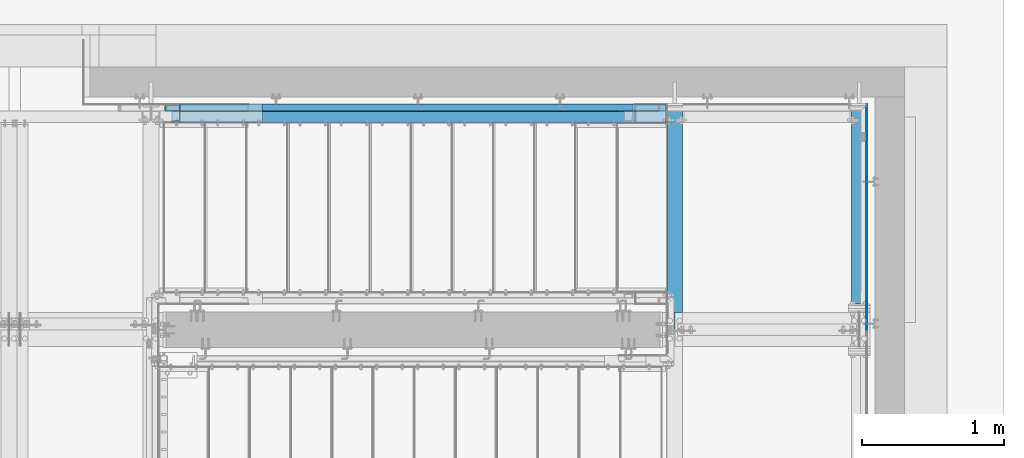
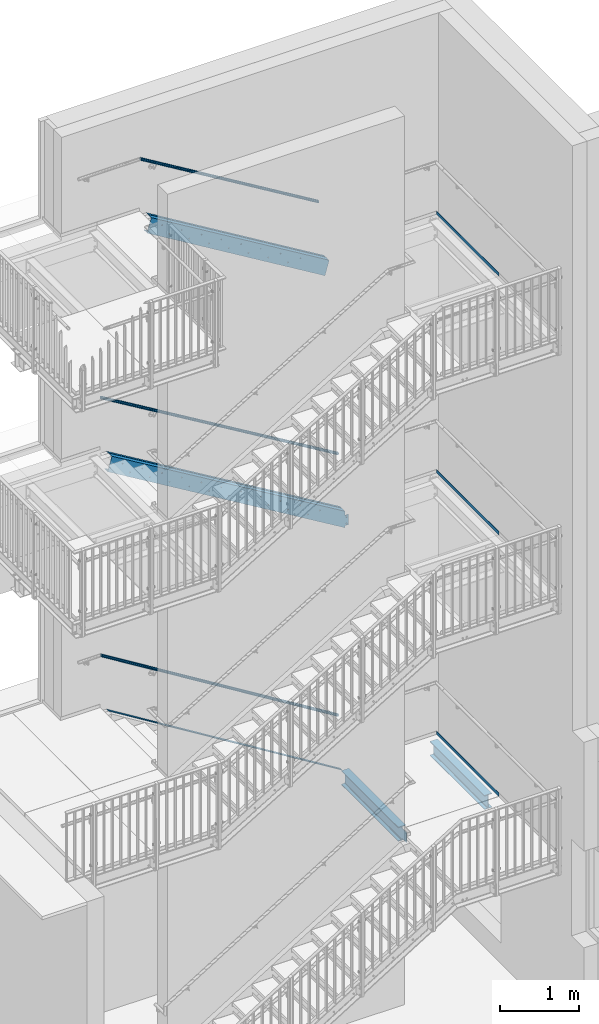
# One storey, part 38 of 410: 8 members, 5 beams, 47 openings.
"""IFC2X3 building model written with IfcOpenShell, lengths in millimetres."""

import ifcopenshell
import ifcopenshell.guid

model = None  # the IFC model being written
_history = None  # IfcOwnerHistory: only IFC2X3 demands one
_inside = {}  # id of a spatial element -> (the spatial element, [elements in it])
_under = {}  # id of a project, library or spatial element -> (it, [spatial elements below it])
_declared = {}  # id of a project -> (the project, [libraries it declares])
_typed = {}  # id of a type object -> (the type object, [elements of that type])
_made_of = {}  # id of a material, layer set ... -> (it, [elements and type objects made of it])


def new_model(schema):
    """Start an empty IFC model of exactly this schema.

    Asked for "IFC4X3", IfcOpenShell would pick the latest addendum, in which some entities
    have other attributes; the version numbers below select the first issue.
    IFC2X3 requires an IfcOwnerHistory on every rooted entity: one is made here for all.
    """
    global model, _history
    if schema == "IFC4X3":
        model = ifcopenshell.file(schema_version=(4, 3, 0, 0))
    else:
        model = ifcopenshell.file(schema=schema)
    _inside.clear()
    _under.clear()
    _declared.clear()
    _typed.clear()
    _made_of.clear()
    _history = None
    if model.schema == "IFC2X3":
        org = make("IfcOrganization", Name="unknown")
        user = make(
            "IfcPersonAndOrganization",
            ThePerson=make("IfcPerson", FamilyName="unknown"),
            TheOrganization=org,
        )
        app = make(
            "IfcApplication",
            ApplicationDeveloper=org,
            Version="unknown",
            ApplicationFullName="unknown",
            ApplicationIdentifier="unknown",
        )
        _history = make(
            "IfcOwnerHistory",
            OwningUser=user,
            OwningApplication=app,
            ChangeAction="ADDED",
            CreationDate=0,
        )
    return model


def make(cls, **values):
    """One entity of the class cls with the attributes given. An attribute that is None is left unset."""
    return model.create_entity(
        cls, **{name: value for name, value in values.items() if value is not None}
    )


def entity(cls, *values):
    """Any entity or typed value of the class cls, its attributes in the order of the schema. None: left unset."""
    e = model.create_entity(cls)
    for i, value in enumerate(values):
        if value is not None:
            e[i] = value
    return e


def rooted(cls, **values):
    """An entity with a GlobalId (a new one), such as an element, a storey or a relation."""
    return make(cls, GlobalId=ifcopenshell.guid.new(), OwnerHistory=_history, **values)


def si_unit(unit_type, name, prefix=None):
    """IfcSIUnit, for example si_unit("LENGTHUNIT", "METRE", prefix="MILLI")."""
    return make("IfcSIUnit", UnitType=unit_type, Prefix=prefix, Name=name)


def converted_unit(unit_type, name, factor, base, dimensions=None, offset=None):
    """IfcConversionBasedUnit, such as the inch: factor (a typed value) times the base unit."""
    return make(
        "IfcConversionBasedUnit"
        if offset is None
        else "IfcConversionBasedUnitWithOffset",
        ConversionOffset=offset,
        Dimensions=None
        if dimensions is None
        else entity("IfcDimensionalExponents", *dimensions),
        UnitType=unit_type,
        Name=name,
        ConversionFactor=make(
            "IfcMeasureWithUnit", ValueComponent=factor, UnitComponent=base
        ),
    )


def assignment(units):
    """IfcUnitAssignment: the units of a project."""
    return None if units is None else make("IfcUnitAssignment", Units=units)


def point(xyz):
    """IfcCartesianPoint."""
    return None if xyz is None else make("IfcCartesianPoint", Coordinates=xyz)


def direction(xyz):
    """IfcDirection."""
    return None if xyz is None else make("IfcDirection", DirectionRatios=xyz)


def frame(location, z_axis=None, x_axis=None):
    """IfcAxis2Placement3D, a coordinate frame: its origin and axes. An axis left out is left unset."""
    return make(
        "IfcAxis2Placement3D",
        Location=point(location),
        Axis=direction(z_axis),
        RefDirection=direction(x_axis),
    )


def frame_2d(location, x_axis=None):
    """IfcAxis2Placement2D, a coordinate frame in the plane: its origin and x axis."""
    return make(
        "IfcAxis2Placement2D", Location=point(location), RefDirection=direction(x_axis)
    )


def origin():
    """The frame at (0, 0, 0) with its axes left unset."""
    return frame((0.0, 0.0, 0.0))


def origin_with_axes():
    """The frame at (0, 0, 0) with the z axis (0, 0, 1) and the x axis (1, 0, 0) written out."""
    return frame((0.0, 0.0, 0.0), z_axis=(0.0, 0.0, 1.0), x_axis=(1.0, 0.0, 0.0))


def origin_2d():
    """The frame at (0, 0) in the plane with its x axis left unset."""
    return frame_2d((0.0, 0.0))


def origin_2d_with_axis():
    """The frame at (0, 0) in the plane with the x axis (1, 0) written out."""
    return frame_2d((0.0, 0.0), x_axis=(1.0, 0.0))


def place(relative_to, where):
    """IfcLocalPlacement: puts the frame where relative to a parent placement (None: the world)."""
    return make(
        "IfcLocalPlacement", PlacementRelTo=relative_to, RelativePlacement=where
    )


def context(
    kind, dimensions, precision=None, world=None, true_north=None, identifier=None
):
    """IfcGeometricRepresentationContext, for example the 3D "Model" context."""
    return make(
        "IfcGeometricRepresentationContext",
        ContextIdentifier=identifier,
        ContextType=kind,
        CoordinateSpaceDimension=dimensions,
        Precision=precision,
        WorldCoordinateSystem=world,
        TrueNorth=true_north,
    )


def project(units=None, contexts=None):
    """IfcProject with its units and contexts."""
    return rooted(
        "IfcProject",
        Name="project",
        RepresentationContexts=contexts,
        UnitsInContext=assignment(units),
    )


def spatial(cls, under=None, at=None, **own):
    """A site, building, storey or space (cls), placed at a placement, below another one or the project."""
    s = rooted(cls, ObjectPlacement=at, **own)
    if under is not None:
        _under.setdefault(under.id(), (under, []))[1].append(s)
    return s


def circle_curve(where, radius):
    """IfcCircle in the frame where."""
    return make("IfcCircle", Position=where, Radius=radius)


def line_curve(start, along, magnitude):
    """IfcLine from a point along a vector."""
    return make(
        "IfcLine",
        Pnt=point(start),
        Dir=make("IfcVector", Orientation=direction(along), Magnitude=magnitude),
    )


def trimmed(basis, trim1, trim2, sense, master):
    """IfcTrimmedCurve: the piece of a basis curve between two trims."""
    return make(
        "IfcTrimmedCurve",
        BasisCurve=basis,
        Trim1=trim1,
        Trim2=trim2,
        SenseAgreement=sense,
        MasterRepresentation=master,
    )


def segment(curve, same_sense, transition):
    """IfcCompositeCurveSegment."""
    return make(
        "IfcCompositeCurveSegment",
        Transition=transition,
        SameSense=same_sense,
        ParentCurve=curve,
    )


def composite_curve(segments, self_intersect=None):
    """IfcCompositeCurve: segments joined end to end."""
    return make("IfcCompositeCurve", Segments=segments, SelfIntersect=self_intersect)


def profile(cls, at=None, kind="AREA", **sizes):
    """A parametric profile (cls). Its sizes go by their IFC names, for example OverallWidth=200.0."""
    return make(cls, ProfileType=kind, Position=at, **sizes)


def rectangle(**sizes):
    """IfcRectangleProfileDef."""
    return profile("IfcRectangleProfileDef", **sizes)


def circle(**sizes):
    """IfcCircleProfileDef."""
    return profile("IfcCircleProfileDef", **sizes)


def hollow_circle(**sizes):
    """IfcCircleHollowProfileDef."""
    return profile("IfcCircleHollowProfileDef", **sizes)


def i_section(**sizes):
    """IfcIShapeProfileDef."""
    return profile("IfcIShapeProfileDef", **sizes)


def u_section(**sizes):
    """IfcUShapeProfileDef."""
    return profile("IfcUShapeProfileDef", **sizes)


def outline(outer, holes=None, kind="AREA"):
    """IfcArbitraryClosedProfileDef: a profile drawn as a closed curve; with holes, ...WithVoids."""
    if holes is None:
        return make("IfcArbitraryClosedProfileDef", ProfileType=kind, OuterCurve=outer)
    return make(
        "IfcArbitraryProfileDefWithVoids",
        ProfileType=kind,
        OuterCurve=outer,
        InnerCurves=holes,
    )


def extrude(swept, where, along, depth):
    """IfcExtrudedAreaSolid: the profile swept, set in the frame where, extruded along a direction by depth."""
    return make(
        "IfcExtrudedAreaSolid",
        SweptArea=swept,
        Position=where,
        ExtrudedDirection=direction(along),
        Depth=depth,
    )


def clip(a, b, op="DIFFERENCE"):
    """IfcBooleanClippingResult: the solid a cut by the half space b."""
    return make(
        "IfcBooleanClippingResult", Operator=op, FirstOperand=a, SecondOperand=b
    )


def halfspace(plane, agree):
    """IfcHalfSpaceSolid: all space on one side of the plane z = 0 of the frame plane."""
    return make(
        "IfcHalfSpaceSolid",
        BaseSurface=make("IfcPlane", Position=plane),
        AgreementFlag=agree,
    )


def shape(context_of_items, identifier, shape_type, items):
    """IfcShapeRepresentation: the items that make up one representation, for example the "Body"."""
    return make(
        "IfcShapeRepresentation",
        ContextOfItems=context_of_items,
        RepresentationIdentifier=identifier,
        RepresentationType=shape_type,
        Items=items,
    )


def material(Name=None, Category=None):
    """IfcMaterial."""
    return make("IfcMaterial", Name=Name, Category=Category)


def made_of(thing, what):
    """Note that an element or type object is made of a material, layer set ...; save() writes the relation."""
    if what is not None:
        _made_of.setdefault(what.id(), (what, []))[1].append(thing)
    return thing


def element(
    cls,
    number,
    at=None,
    inside=None,
    cuts=None,
    type_object=None,
    material=None,
    context=None,
    identifier="Body",
    shape_type=None,
    held_by="IfcProductDefinitionShape",
    body=None,
    shapes=None,
    **own,
):
    """One element of the class cls, such as IfcWall. Its Tag is "e" and its number.

    at: its placement. inside: the storey or other place that contains it. cuts: it is an
    opening in that element (IfcRelVoidsElement). A single representation is given by context,
    identifier, shape_type and body (its items); several are given by shapes. held_by: the class
    of the entity that holds the representations. save() writes the other relations.
    """
    e = rooted(cls, Tag="e%d" % number, ObjectPlacement=at, **own)
    if body is not None:
        shapes = [shape(context, identifier, shape_type, body)]
    if shapes is not None:
        e.Representation = make(held_by, Representations=shapes)
    if inside is not None:
        _inside.setdefault(inside.id(), (inside, []))[1].append(e)
    if cuts is not None:
        rooted(
            "IfcRelVoidsElement", RelatingBuildingElement=cuts, RelatedOpeningElement=e
        )
    if type_object is not None:
        _typed.setdefault(type_object.id(), (type_object, []))[1].append(e)
    return made_of(e, material)


def aggregate(whole, parts):
    """IfcRelAggregates: a whole, such as a stair, and the parts it consists of."""
    return rooted("IfcRelAggregates", RelatingObject=whole, RelatedObjects=parts)


def save(model, path):
    """Write the relations noted so far, then the file.

    IfcRelAggregates (storeys below a building ...), IfcRelContainedInSpatialStructure (elements
    in a storey), IfcRelDefinesByType, IfcRelAssociatesMaterial and IfcRelDeclares: one each for
    every whole, place, type object, material and project.
    """
    for whole, parts in _under.values():
        aggregate(whole, parts)
    for where, things in _inside.values():
        rooted(
            "IfcRelContainedInSpatialStructure",
            RelatedElements=things,
            RelatingStructure=where,
        )
    for kind, things in _typed.values():
        rooted("IfcRelDefinesByType", RelatedObjects=things, RelatingType=kind)
    for what, things in _made_of.values():
        rooted("IfcRelAssociatesMaterial", RelatedObjects=things, RelatingMaterial=what)
    for by, libraries in _declared.values():
        rooted("IfcRelDeclares", RelatingContext=by, RelatedDefinitions=libraries)
    model.write(path)


model = new_model("IFC2X3")

# Units and contexts
model_context = context("Model", 3, precision=1e-09, world=origin_with_axes())
ifc_project = project(units=[si_unit("LENGTHUNIT", "METRE", prefix="MILLI"), si_unit("AREAUNIT", "SQUARE_METRE"), si_unit("VOLUMEUNIT", "CUBIC_METRE"), converted_unit("PLANEANGLEUNIT", "DEGREE", entity("IfcPlaneAngleMeasure", 0.01745329), si_unit("PLANEANGLEUNIT", "RADIAN"), dimensions=[0, 0, 0, 0, 0, 0, 0])], contexts=[model_context])

# Site, building, storey
site_placement = place(None, origin_with_axes())
site = spatial("IfcSite", under=ifc_project, at=site_placement, Name="mKR Teilneubau & Sanierung BA1 - Ostfildern", CompositionType="ELEMENT")
building_placement = place(site_placement, origin_with_axes())
building = spatial("IfcBuilding", under=site, at=building_placement, Name="Struktur 1", CompositionType="ELEMENT")
storey_placement = place(building_placement, origin_with_axes())
storey = spatial("IfcBuildingStorey", under=building, at=storey_placement, Name="Default Storey", CompositionType="ELEMENT", Elevation=0.0)

# Member, openings
ifc_material = material(Name="S235JR")
member_1_placement = place(None, frame((1919.154001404, 18461.399999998, 1698.330327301), z_axis=(-0.857606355, 0.0, 0.51430666), x_axis=(0.0, 1.0, 0.0)))
member_1 = element("IfcMember", 1, at=member_1_placement, inside=storey, material=ifc_material, Name="-", ObjectType="-", context=model_context, shape_type="Clipping", body=[
    clip(extrude(u_section(Depth=220.0, FlangeWidth=80.0, WebThickness=9.0, FlangeThickness=12.5, FilletRadius=12.5, EdgeRadius=6.0, FlangeSlope=4.574, at=frame_2d((18.6, 0.0))), origin(), (0.0, 0.0, 1.0), 4410.788036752), halfspace(frame((-18461.399999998, 3136.766015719, 3276.281884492), z_axis=(0.0, -0.266827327, -0.963744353), x_axis=(1.0, 0.0, 0.0)), True)),
])
opening_1_placement = place(member_1_placement, frame((-121.5, 62.931079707, -199.893542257), z_axis=(-1.0, 0.0, 0.0), x_axis=(0.0, -0.857606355, 0.51430666)))
element("IfcOpeningElement", 2, at=opening_1_placement, cuts=member_1, ObjectType="Opening", context=model_context, shape_type="SweptSolid", body=[
    extrude(outline(composite_curve([segment(trimmed(line_curve((0.0, 0.0), (1.0, 0.0), 396.500732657), [point((0.0, 0.0))], [point((396.500732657, 0.0))], True, "CARTESIAN"), True, "CONTINUOUS"), segment(trimmed(line_curve((396.500732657, 0.0), (0.0, 1.0), 243.217631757), [point((396.500732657, 0.0))], [point((396.500732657, 243.217631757))], True, "CARTESIAN"), True, "CONTINUOUS"), segment(trimmed(line_curve((396.500732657, 243.217631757), (-1.0, 0.0), 110.011907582), [point((396.500732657, 243.217631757))], [point((286.488825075, 243.217631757))], True, "CARTESIAN"), True, "CONTINUOUS"), segment(trimmed(circle_curve(frame_2d((286.488825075, 238.216631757), x_axis=(1.0, 0.0)), 5.001), [point((286.488825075, 243.217631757))], [point((281.487825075, 238.216631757))], True, "CARTESIAN"), True, "CONTINUOUS"), segment(trimmed(line_curve((281.487825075, 238.216631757), (0.0, -1.0), 47.047), [point((281.487825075, 238.216631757))], [point((281.487825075, 191.169631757))], True, "CARTESIAN"), True, "CONTINUOUS"), segment(trimmed(line_curve((281.487825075, 191.169631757), (-1.0, 0.0), 159.996000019), [point((281.487825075, 191.169631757))], [point((121.491825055, 191.169631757))], True, "CARTESIAN"), True, "CONTINUOUS"), segment(trimmed(line_curve((121.491825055, 191.169631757), (-1.9213e-05, 1.0), 47.047096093), [point((121.491825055, 191.169631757))], [point((121.490921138, 238.216727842))], True, "CARTESIAN"), True, "CONTINUOUS"), segment(trimmed(circle_curve(frame_2d((116.489921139, 238.216631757), x_axis=(1.0, 0.0)), 5.001), [point((121.490921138, 238.216727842))], [point((116.489921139, 243.217631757))], True, "CARTESIAN"), True, "CONTINUOUS"), segment(trimmed(line_curve((116.489921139, 243.217631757), (-1.0, 0.0), 116.489921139), [point((116.489921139, 243.217631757))], [point((0.0, 243.217631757))], True, "CARTESIAN"), True, "CONTINUOUS"), segment(trimmed(line_curve((0.0, 243.217631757), (0.0, -1.0), 243.217631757), [point((0.0, 243.217631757))], [point((0.0, 0.0))], True, "CARTESIAN"), True, "CONTINUOUS")], self_intersect=False)), origin(), (0.0, 0.0, -1.0), 280.2),
])
opening_2_placement = place(member_1_placement, frame((-21.9, 47.744281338, 2757.207646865), z_axis=(1.0, 0.0, 0.0), x_axis=(0.0, 0.51430666, 0.857606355)))
element("IfcOpeningElement", 3, at=opening_2_placement, cuts=member_1, ObjectType="Opening", context=model_context, shape_type="SweptSolid", body=[
    extrude(circle(Radius=7.001, at=origin_2d_with_axis()), origin(), (0.0, 0.0, 1.0), 10.0),
])
opening_3_placement = place(member_1_placement, frame((-21.9, 47.744281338, 1404.605729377), z_axis=(1.0, 0.0, 0.0), x_axis=(0.0, 0.51430666, 0.857606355)))
element("IfcOpeningElement", 4, at=opening_3_placement, cuts=member_1, ObjectType="Opening", context=model_context, shape_type="SweptSolid", body=[
    extrude(circle(Radius=7.001, at=origin_2d_with_axis()), origin(), (0.0, 0.0, 1.0), 10.0),
])
opening_4_placement = place(member_1_placement, frame((-21.9, -44.830917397, 3617.28994111), z_axis=(1.0, 0.0, 0.0), x_axis=(0.0, 0.51430666, 0.857606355)))
element("IfcOpeningElement", 5, at=opening_4_placement, cuts=member_1, ObjectType="Opening", context=model_context, shape_type="SweptSolid", body=[
    extrude(circle(Radius=7.001, at=origin_2d_with_axis()), origin(), (0.0, 0.0, 1.0), 10.0),
])
opening_5_placement = place(member_1_placement, frame((-21.9, -44.830917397, 3955.440420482), z_axis=(1.0, 0.0, 0.0), x_axis=(0.0, 0.51430666, 0.857606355)))
element("IfcOpeningElement", 6, at=opening_5_placement, cuts=member_1, ObjectType="Opening", context=model_context, shape_type="SweptSolid", body=[
    extrude(circle(Radius=7.001, at=origin_2d_with_axis()), origin(), (0.0, 0.0, 1.0), 10.0),
])
opening_6_placement = place(member_1_placement, frame((-21.9, -44.830917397, 573.935626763), z_axis=(1.0, 0.0, 0.0), x_axis=(0.0, 0.51430666, 0.857606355)))
element("IfcOpeningElement", 7, at=opening_6_placement, cuts=member_1, ObjectType="Opening", context=model_context, shape_type="SweptSolid", body=[
    extrude(circle(Radius=7.001, at=origin_2d_with_axis()), origin(), (0.0, 0.0, 1.0), 10.0),
])
opening_7_placement = place(member_1_placement, frame((-21.9, -44.830917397, 2264.688023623), z_axis=(1.0, 0.0, 0.0), x_axis=(0.0, 0.51430666, 0.857606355)))
element("IfcOpeningElement", 8, at=opening_7_placement, cuts=member_1, ObjectType="Opening", context=model_context, shape_type="SweptSolid", body=[
    extrude(circle(Radius=7.001, at=origin_2d_with_axis()), origin(), (0.0, 0.0, 1.0), 10.0),
])
opening_8_placement = place(member_1_placement, frame((-21.9, 47.744281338, 1066.455250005), z_axis=(1.0, 0.0, 0.0), x_axis=(0.0, 0.51430666, 0.857606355)))
element("IfcOpeningElement", 9, at=opening_8_placement, cuts=member_1, ObjectType="Opening", context=model_context, shape_type="SweptSolid", body=[
    extrude(circle(Radius=7.001, at=origin_2d_with_axis()), origin(), (0.0, 0.0, 1.0), 10.0),
])
opening_9_placement = place(member_1_placement, frame((-21.9, 47.744281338, 728.304770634), z_axis=(1.0, 0.0, 0.0), x_axis=(0.0, 0.51430666, 0.857606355)))
element("IfcOpeningElement", 10, at=opening_9_placement, cuts=member_1, ObjectType="Opening", context=model_context, shape_type="SweptSolid", body=[
    extrude(circle(Radius=7.001, at=origin_2d_with_axis()), origin(), (0.0, 0.0, 1.0), 10.0),
])
opening_10_placement = place(member_1_placement, frame((-21.9, -44.830917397, 1926.537544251), z_axis=(1.0, 0.0, 0.0), x_axis=(0.0, 0.51430666, 0.857606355)))
element("IfcOpeningElement", 11, at=opening_10_placement, cuts=member_1, ObjectType="Opening", context=model_context, shape_type="SweptSolid", body=[
    extrude(circle(Radius=7.001, at=origin_2d_with_axis()), origin(), (0.0, 0.0, 1.0), 10.0),
])
opening_11_placement = place(member_1_placement, frame((-21.9, -44.830917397, 2940.988982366), z_axis=(1.0, 0.0, 0.0), x_axis=(0.0, 0.51430666, 0.857606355)))
element("IfcOpeningElement", 12, at=opening_11_placement, cuts=member_1, ObjectType="Opening", context=model_context, shape_type="SweptSolid", body=[
    extrude(circle(Radius=7.001, at=origin_2d_with_axis()), origin(), (0.0, 0.0, 1.0), 10.0),
])
opening_12_placement = place(member_1_placement, frame((-21.9, -44.830917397, 3279.139461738), z_axis=(1.0, 0.0, 0.0), x_axis=(0.0, 0.51430666, 0.857606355)))
element("IfcOpeningElement", 13, at=opening_12_placement, cuts=member_1, ObjectType="Opening", context=model_context, shape_type="SweptSolid", body=[
    extrude(circle(Radius=7.001, at=origin_2d_with_axis()), origin(), (0.0, 0.0, 1.0), 10.0),
])
opening_13_placement = place(member_1_placement, frame((-21.9, -44.830917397, 912.086106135), z_axis=(1.0, 0.0, 0.0), x_axis=(0.0, 0.51430666, 0.857606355)))
element("IfcOpeningElement", 14, at=opening_13_placement, cuts=member_1, ObjectType="Opening", context=model_context, shape_type="SweptSolid", body=[
    extrude(circle(Radius=7.001, at=origin_2d_with_axis()), origin(), (0.0, 0.0, 1.0), 10.0),
])
opening_14_placement = place(member_1_placement, frame((-21.9, -44.830917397, 1250.236585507), z_axis=(1.0, 0.0, 0.0), x_axis=(0.0, 0.51430666, 0.857606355)))
element("IfcOpeningElement", 15, at=opening_14_placement, cuts=member_1, ObjectType="Opening", context=model_context, shape_type="SweptSolid", body=[
    extrude(circle(Radius=7.001, at=origin_2d_with_axis()), origin(), (0.0, 0.0, 1.0), 10.0),
])
opening_15_placement = place(member_1_placement, frame((-21.9, -44.830917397, 1588.387064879), z_axis=(1.0, 0.0, 0.0), x_axis=(0.0, 0.51430666, 0.857606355)))
element("IfcOpeningElement", 16, at=opening_15_placement, cuts=member_1, ObjectType="Opening", context=model_context, shape_type="SweptSolid", body=[
    extrude(circle(Radius=7.001, at=origin_2d_with_axis()), origin(), (0.0, 0.0, 1.0), 10.0),
])
opening_16_placement = place(member_1_placement, frame((-21.9, 47.744281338, 1742.756208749), z_axis=(1.0, 0.0, 0.0), x_axis=(0.0, 0.51430666, 0.857606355)))
element("IfcOpeningElement", 17, at=opening_16_placement, cuts=member_1, ObjectType="Opening", context=model_context, shape_type="SweptSolid", body=[
    extrude(circle(Radius=7.001, at=origin_2d_with_axis()), origin(), (0.0, 0.0, 1.0), 10.0),
])
opening_17_placement = place(member_1_placement, frame((-21.9, 47.744281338, 2080.906688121), z_axis=(1.0, 0.0, 0.0), x_axis=(0.0, 0.51430666, 0.857606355)))
element("IfcOpeningElement", 18, at=opening_17_placement, cuts=member_1, ObjectType="Opening", context=model_context, shape_type="SweptSolid", body=[
    extrude(circle(Radius=7.001, at=origin_2d_with_axis()), origin(), (0.0, 0.0, 1.0), 10.0),
])
opening_18_placement = place(member_1_placement, frame((-21.9, 47.744281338, 2419.057167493), z_axis=(1.0, 0.0, 0.0), x_axis=(0.0, 0.51430666, 0.857606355)))
element("IfcOpeningElement", 19, at=opening_18_placement, cuts=member_1, ObjectType="Opening", context=model_context, shape_type="SweptSolid", body=[
    extrude(circle(Radius=7.001, at=origin_2d_with_axis()), origin(), (0.0, 0.0, 1.0), 10.0),
])
opening_19_placement = place(member_1_placement, frame((-21.9, -44.830917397, 2602.838502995), z_axis=(1.0, 0.0, 0.0), x_axis=(0.0, 0.51430666, 0.857606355)))
element("IfcOpeningElement", 20, at=opening_19_placement, cuts=member_1, ObjectType="Opening", context=model_context, shape_type="SweptSolid", body=[
    extrude(circle(Radius=7.001, at=origin_2d_with_axis()), origin(), (0.0, 0.0, 1.0), 10.0),
])
opening_20_placement = place(member_1_placement, frame((-21.9, 47.744281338, 3095.358126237), z_axis=(1.0, 0.0, 0.0), x_axis=(0.0, 0.51430666, 0.857606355)))
element("IfcOpeningElement", 21, at=opening_20_placement, cuts=member_1, ObjectType="Opening", context=model_context, shape_type="SweptSolid", body=[
    extrude(circle(Radius=7.001, at=origin_2d_with_axis()), origin(), (0.0, 0.0, 1.0), 10.0),
])
opening_21_placement = place(member_1_placement, frame((-21.9, 47.744281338, 3433.508605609), z_axis=(1.0, 0.0, 0.0), x_axis=(0.0, 0.51430666, 0.857606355)))
element("IfcOpeningElement", 22, at=opening_21_placement, cuts=member_1, ObjectType="Opening", context=model_context, shape_type="SweptSolid", body=[
    extrude(circle(Radius=7.001, at=origin_2d_with_axis()), origin(), (0.0, 0.0, 1.0), 10.0),
])
opening_22_placement = place(member_1_placement, frame((-21.9, 47.744281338, 3771.659084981), z_axis=(1.0, 0.0, 0.0), x_axis=(0.0, 0.51430666, 0.857606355)))
element("IfcOpeningElement", 23, at=opening_22_placement, cuts=member_1, ObjectType="Opening", context=model_context, shape_type="SweptSolid", body=[
    extrude(circle(Radius=7.001, at=origin_2d_with_axis()), origin(), (0.0, 0.0, 1.0), 10.0),
])
opening_23_placement = place(member_1_placement, frame((-21.9, 47.744281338, 4109.809564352), z_axis=(1.0, 0.0, 0.0), x_axis=(0.0, 0.51430666, 0.857606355)))
element("IfcOpeningElement", 24, at=opening_23_placement, cuts=member_1, ObjectType="Opening", context=model_context, shape_type="SweptSolid", body=[
    extrude(circle(Radius=7.001, at=origin_2d_with_axis()), origin(), (0.0, 0.0, 1.0), 10.0),
])
opening_24_placement = place(member_1_placement, frame((-11.9, -38.485042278, 119.981208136), z_axis=(-1.0, 0.0, 0.0), x_axis=(0.0, 0.51430666, 0.857606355)))
element("IfcOpeningElement", 25, at=opening_24_placement, cuts=member_1, ObjectType="Opening", context=model_context, shape_type="SweptSolid", body=[
    extrude(circle(Radius=9.001, at=frame_2d((0.0, 100.0), x_axis=(1.0, 0.0))), origin(), (0.0, 0.0, 1.0), 10.0),
])
opening_25_placement = place(member_1_placement, frame((-11.9, -38.485042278, 119.981208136), z_axis=(-1.0, 0.0, 0.0), x_axis=(0.0, 0.51430666, 0.857606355)))
element("IfcOpeningElement", 26, at=opening_25_placement, cuts=member_1, ObjectType="Opening", context=model_context, shape_type="SweptSolid", body=[
    extrude(circle(Radius=9.001, at=origin_2d_with_axis()), origin(), (0.0, 0.0, 1.0), 10.0),
])

member_2_placement = place(None, frame((-1284.189532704, 18461.399999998, 7467.586142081), z_axis=(0.856187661, 0.0, -0.516664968), x_axis=(0.0, 1.0, 0.0)))
member_2 = element("IfcMember", 27, at=member_2_placement, inside=storey, material=ifc_material, Name="-", ObjectType="-", context=model_context, shape_type="Clipping", body=[
    clip(clip(extrude(u_section(Depth=220.0, FlangeWidth=80.0, WebThickness=9.0, FlangeThickness=12.5, FilletRadius=12.5, EdgeRadius=6.0, FlangeSlope=4.574, at=frame_2d((18.6, 0.0))), origin(), (0.0, 0.0, 1.0), 3519.753965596), halfspace(frame((-18461.399999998, -6530.079416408, 2083.928153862), z_axis=(0.0, 0.268153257, 0.963376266), x_axis=(1.0, 0.0, 0.0)), True)), halfspace(frame((-18461.399999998, -5742.579952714, 4913.124787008), z_axis=(0.0, -0.268153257, -0.963376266), x_axis=(-1.0, 0.0, 0.0)), True)),
])
opening_26_placement = place(member_2_placement, frame((-21.9, -48.173289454, 641.306817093), z_axis=(1.0, 0.0, 0.0), x_axis=(0.0, -0.516664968, -0.856187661)))
element("IfcOpeningElement", 28, at=opening_26_placement, cuts=member_2, ObjectType="Opening", context=model_context, shape_type="SweptSolid", body=[
    extrude(circle(Radius=7.001, at=origin_2d_with_axis()), origin(), (0.0, 0.0, 1.0), 10.0),
])
opening_27_placement = place(member_2_placement, frame((-21.9, -48.173289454, 302.596026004), z_axis=(1.0, 0.0, 0.0), x_axis=(0.0, -0.516664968, -0.856187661)))
element("IfcOpeningElement", 29, at=opening_27_placement, cuts=member_2, ObjectType="Opening", context=model_context, shape_type="SweptSolid", body=[
    extrude(circle(Radius=7.001, at=origin_2d_with_axis()), origin(), (0.0, 0.0, 1.0), 10.0),
])
opening_28_placement = place(member_2_placement, frame((-21.9, -48.173289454, 2334.860772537), z_axis=(1.0, 0.0, 0.0), x_axis=(0.0, -0.516664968, -0.856187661)))
element("IfcOpeningElement", 30, at=opening_28_placement, cuts=member_2, ObjectType="Opening", context=model_context, shape_type="SweptSolid", body=[
    extrude(circle(Radius=7.001, at=origin_2d_with_axis()), origin(), (0.0, 0.0, 1.0), 10.0),
])
opening_29_placement = place(member_2_placement, frame((-21.9, -48.173289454, 1996.149981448), z_axis=(1.0, 0.0, 0.0), x_axis=(0.0, -0.516664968, -0.856187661)))
element("IfcOpeningElement", 31, at=opening_29_placement, cuts=member_2, ObjectType="Opening", context=model_context, shape_type="SweptSolid", body=[
    extrude(circle(Radius=7.001, at=origin_2d_with_axis()), origin(), (0.0, 0.0, 1.0), 10.0),
])
opening_30_placement = place(member_2_placement, frame((-21.9, 44.826404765, 1472.842178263), z_axis=(1.0, 0.0, 0.0), x_axis=(0.0, -0.516664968, -0.856187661)))
element("IfcOpeningElement", 32, at=opening_30_placement, cuts=member_2, ObjectType="Opening", context=model_context, shape_type="SweptSolid", body=[
    extrude(circle(Radius=7.001, at=origin_2d_with_axis()), origin(), (0.0, 0.0, 1.0), 10.0),
])
opening_31_placement = place(member_2_placement, frame((-21.9, 44.826404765, 1811.552969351), z_axis=(1.0, 0.0, 0.0), x_axis=(0.0, -0.516664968, -0.856187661)))
element("IfcOpeningElement", 33, at=opening_31_placement, cuts=member_2, ObjectType="Opening", context=model_context, shape_type="SweptSolid", body=[
    extrude(circle(Radius=7.001, at=origin_2d_with_axis()), origin(), (0.0, 0.0, 1.0), 10.0),
])
opening_32_placement = place(member_2_placement, frame((-21.9, 44.826404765, 2150.26376044), z_axis=(1.0, 0.0, 0.0), x_axis=(0.0, -0.516664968, -0.856187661)))
element("IfcOpeningElement", 34, at=opening_32_placement, cuts=member_2, ObjectType="Opening", context=model_context, shape_type="SweptSolid", body=[
    extrude(circle(Radius=7.001, at=origin_2d_with_axis()), origin(), (0.0, 0.0, 1.0), 10.0),
])
opening_33_placement = place(member_2_placement, frame((-21.9, -48.173289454, 1318.728399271), z_axis=(1.0, 0.0, 0.0), x_axis=(0.0, -0.516664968, -0.856187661)))
element("IfcOpeningElement", 35, at=opening_33_placement, cuts=member_2, ObjectType="Opening", context=model_context, shape_type="SweptSolid", body=[
    extrude(circle(Radius=7.001, at=origin_2d_with_axis()), origin(), (0.0, 0.0, 1.0), 10.0),
])
opening_34_placement = place(member_2_placement, frame((-21.9, 44.826404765, 1134.131387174), z_axis=(1.0, 0.0, 0.0), x_axis=(0.0, -0.516664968, -0.856187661)))
element("IfcOpeningElement", 36, at=opening_34_placement, cuts=member_2, ObjectType="Opening", context=model_context, shape_type="SweptSolid", body=[
    extrude(circle(Radius=7.001, at=origin_2d_with_axis()), origin(), (0.0, 0.0, 1.0), 10.0),
])
opening_35_placement = place(member_2_placement, frame((-21.9, -48.173289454, 1657.43919036), z_axis=(1.0, 0.0, 0.0), x_axis=(0.0, -0.516664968, -0.856187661)))
element("IfcOpeningElement", 37, at=opening_35_placement, cuts=member_2, ObjectType="Opening", context=model_context, shape_type="SweptSolid", body=[
    extrude(circle(Radius=7.001, at=origin_2d_with_axis()), origin(), (0.0, 0.0, 1.0), 10.0),
])
opening_36_placement = place(member_2_placement, frame((-21.9, -48.173289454, 980.017608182), z_axis=(1.0, 0.0, 0.0), x_axis=(0.0, -0.516664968, -0.856187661)))
element("IfcOpeningElement", 38, at=opening_36_placement, cuts=member_2, ObjectType="Opening", context=model_context, shape_type="SweptSolid", body=[
    extrude(circle(Radius=7.001, at=origin_2d_with_axis()), origin(), (0.0, 0.0, 1.0), 10.0),
])
opening_37_placement = place(member_2_placement, frame((-21.9, -48.173289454, 2673.571563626), z_axis=(1.0, 0.0, 0.0), x_axis=(0.0, -0.516664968, -0.856187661)))
element("IfcOpeningElement", 39, at=opening_37_placement, cuts=member_2, ObjectType="Opening", context=model_context, shape_type="SweptSolid", body=[
    extrude(circle(Radius=7.001, at=origin_2d_with_axis()), origin(), (0.0, 0.0, 1.0), 10.0),
])
opening_38_placement = place(member_2_placement, frame((-21.9, 44.826404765, 2827.685342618), z_axis=(1.0, 0.0, 0.0), x_axis=(0.0, -0.516664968, -0.856187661)))
element("IfcOpeningElement", 40, at=opening_38_placement, cuts=member_2, ObjectType="Opening", context=model_context, shape_type="SweptSolid", body=[
    extrude(circle(Radius=7.001, at=origin_2d_with_axis()), origin(), (0.0, 0.0, 1.0), 10.0),
])
opening_39_placement = place(member_2_placement, frame((-21.9, 44.826404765, 2488.974551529), z_axis=(1.0, 0.0, 0.0), x_axis=(0.0, -0.516664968, -0.856187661)))
element("IfcOpeningElement", 41, at=opening_39_placement, cuts=member_2, ObjectType="Opening", context=model_context, shape_type="SweptSolid", body=[
    extrude(circle(Radius=7.001, at=origin_2d_with_axis()), origin(), (0.0, 0.0, 1.0), 10.0),
])
opening_40_placement = place(member_2_placement, frame((-21.9, 44.826404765, 795.420596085), z_axis=(1.0, 0.0, 0.0), x_axis=(0.0, -0.516664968, -0.856187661)))
element("IfcOpeningElement", 42, at=opening_40_placement, cuts=member_2, ObjectType="Opening", context=model_context, shape_type="SweptSolid", body=[
    extrude(circle(Radius=7.001, at=origin_2d_with_axis()), origin(), (0.0, 0.0, 1.0), 10.0),
])
opening_41_placement = place(member_2_placement, frame((-21.9, 44.826404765, 456.709804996), z_axis=(1.0, 0.0, 0.0), x_axis=(0.0, -0.516664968, -0.856187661)))
element("IfcOpeningElement", 43, at=opening_41_placement, cuts=member_2, ObjectType="Opening", context=model_context, shape_type="SweptSolid", body=[
    extrude(circle(Radius=7.001, at=origin_2d_with_axis()), origin(), (0.0, 0.0, 1.0), 10.0),
])

# Beam, openings
beam_1_placement = place(None, frame((3180.001468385, 17160.0, -2315.599999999), z_axis=(0.0, 1.0, 0.0), x_axis=(1.0, 0.0, 0.0)))
beam_1 = element("IfcBeam", 44, at=beam_1_placement, inside=storey, material=ifc_material, Name="-", ObjectType="-", context=model_context, shape_type="SweptSolid", body=[
    extrude(i_section(OverallWidth=110.0, OverallDepth=220.0, WebThickness=5.9, FlangeThickness=9.2, FilletRadius=12.0, at=origin_2d()), origin(), (0.0, 0.0, 1.0), 1389.996360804),
])
opening_42_placement = place(beam_1_placement, frame((-3.45, 79.0, 1374.996360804), z_axis=(1.0, 0.0, 0.0), x_axis=(0.0, 0.0, -1.0)))
element("IfcOpeningElement", 45, at=opening_42_placement, cuts=beam_1, ObjectType="Opening", context=model_context, shape_type="SweptSolid", body=[
    extrude(circle(Radius=7.001, at=origin_2d_with_axis()), origin(), (0.0, 0.0, 1.0), 6.9),
])
opening_43_placement = place(beam_1_placement, frame((-3.45, -79.0, 1374.996360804), z_axis=(1.0, 0.0, 0.0), x_axis=(0.0, 0.0, -1.0)))
element("IfcOpeningElement", 46, at=opening_43_placement, cuts=beam_1, ObjectType="Opening", context=model_context, shape_type="SweptSolid", body=[
    extrude(circle(Radius=7.001, at=origin_2d_with_axis()), origin(), (0.0, 0.0, 1.0), 6.9),
])

beam_2_placement = place(None, frame((1880.001468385, 16985.0, -2315.599999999), z_axis=(0.0, 1.0, 0.0), x_axis=(1.0, 0.0, 0.0)))
beam_2 = element("IfcBeam", 47, at=beam_2_placement, inside=storey, material=ifc_material, Name="-", ObjectType="-", context=model_context, shape_type="SweptSolid", body=[
    extrude(i_section(OverallWidth=110.0, OverallDepth=220.0, WebThickness=5.9, FlangeThickness=9.2, FilletRadius=12.0, at=origin_2d()), origin(), (0.0, 0.0, 1.0), 1564.996360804),
])
opening_44_placement = place(beam_2_placement, frame((155.1, -89.999, -23.059304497), z_axis=(1.0, 0.0, 0.0), x_axis=(0.0, 0.707106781, 0.707106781)))
element("IfcOpeningElement", 48, at=opening_44_placement, cuts=beam_2, ObjectType="Opening", context=model_context, shape_type="SweptSolid", body=[
    extrude(outline(composite_curve([segment(trimmed(circle_curve(frame_2d((7.071067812, 7.071067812), x_axis=(1.0, 0.0)), 10.0), [point((0.0, 0.0))], [point((14.142135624, 0.0))], True, "CARTESIAN"), True, "CONTINUOUS"), segment(trimmed(line_curve((14.142135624, 0.0), (0.707106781, 0.707106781), 118.060304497), [point((14.142135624, 0.0))], [point((97.623377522, 83.481241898))], True, "CARTESIAN"), True, "CONTINUOUS"), segment(trimmed(circle_curve(frame_2d((90.55230971, 90.55230971), x_axis=(1.0, 0.0)), 10.0), [point((97.623377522, 83.481241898))], [point((97.623377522, 97.623377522))], True, "CARTESIAN"), True, "CONTINUOUS"), segment(trimmed(line_curve((97.623377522, 97.623377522), (-0.707106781, 0.707106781), 40.031926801), [point((97.623377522, 97.623377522))], [point((69.316530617, 125.930224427))], True, "CARTESIAN"), True, "CONTINUOUS"), segment(trimmed(circle_curve(frame_2d((62.245462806, 118.859156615), x_axis=(1.0, 0.0)), 10.0), [point((69.316530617, 125.930224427))], [point((55.174394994, 125.930224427))], True, "CARTESIAN"), True, "CONTINUOUS"), segment(trimmed(line_curve((55.174394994, 125.930224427), (-0.707106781, -0.707106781), 118.060304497), [point((55.174394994, 125.930224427))], [point((-28.306846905, 42.448982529))], True, "CARTESIAN"), True, "CONTINUOUS"), segment(trimmed(circle_curve(frame_2d((-21.235779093, 35.377914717), x_axis=(1.0, 0.0)), 10.0), [point((-28.306846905, 42.448982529))], [point((-28.306846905, 28.306846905))], True, "CARTESIAN"), True, "CONTINUOUS"), segment(trimmed(line_curve((-28.306846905, 28.306846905), (0.707106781, -0.707106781), 40.031926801), [point((-28.306846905, 28.306846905))], [point((0.0, 0.0))], True, "CARTESIAN"), True, "CONTINUOUS")], self_intersect=False)), origin(), (0.0, 0.0, -1.0), 310.2),
])
opening_45_placement = place(beam_2_placement, frame((155.1, 141.093548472, -29.020768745), z_axis=(1.0, 0.0, 0.0), x_axis=(0.0, 0.707106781, 0.707106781)))
element("IfcOpeningElement", 49, at=opening_45_placement, cuts=beam_2, ObjectType="Opening", context=model_context, shape_type="SweptSolid", body=[
    extrude(outline(composite_curve([segment(trimmed(circle_curve(frame_2d((7.071067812, 7.071067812), x_axis=(1.0, 0.0)), 10.0), [point((0.0, 0.0))], [point((14.142135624, 0.0))], True, "CARTESIAN"), True, "CONTINUOUS"), segment(trimmed(line_curve((14.142135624, 0.0), (0.707106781, 0.707106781), 124.021768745), [point((14.142135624, 0.0))], [point((101.838769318, 87.696633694))], True, "CARTESIAN"), True, "CONTINUOUS"), segment(trimmed(circle_curve(frame_2d((94.767701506, 94.767701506), x_axis=(1.0, 0.0)), 10.0), [point((101.838769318, 87.696633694))], [point((101.838769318, 101.838769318))], True, "CARTESIAN"), True, "CONTINUOUS"), segment(trimmed(line_curve((101.838769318, 101.838769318), (-0.707106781, 0.707106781), 51.094548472), [point((101.838769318, 101.838769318))], [point((65.709467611, 137.968071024))], True, "CARTESIAN"), True, "CONTINUOUS"), segment(trimmed(circle_curve(frame_2d((58.6383998, 130.897003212), x_axis=(1.0, 0.0)), 10.0), [point((65.709467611, 137.968071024))], [point((51.567331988, 137.968071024))], True, "CARTESIAN"), True, "CONTINUOUS"), segment(trimmed(line_curve((51.567331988, 137.968071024), (-0.707106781, -0.707106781), 124.021768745), [point((51.567331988, 137.968071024))], [point((-36.129301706, 50.27143733))], True, "CARTESIAN"), True, "CONTINUOUS"), segment(trimmed(circle_curve(frame_2d((-29.058233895, 43.200369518), x_axis=(1.0, 0.0)), 10.0), [point((-36.129301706, 50.27143733))], [point((-36.129301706, 36.129301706))], True, "CARTESIAN"), True, "CONTINUOUS"), segment(trimmed(line_curve((-36.129301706, 36.129301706), (0.707106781, -0.707106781), 51.094548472), [point((-36.129301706, 36.129301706))], [point((0.0, 0.0))], True, "CARTESIAN"), True, "CONTINUOUS")], self_intersect=False)), origin(), (0.0, 0.0, -1.0), 310.2),
])
opening_46_placement = place(beam_2_placement, frame((-3.45, 79.0, 1549.996360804), z_axis=(1.0, 0.0, 0.0), x_axis=(0.0, 0.0, -1.0)))
element("IfcOpeningElement", 50, at=opening_46_placement, cuts=beam_2, ObjectType="Opening", context=model_context, shape_type="SweptSolid", body=[
    extrude(circle(Radius=7.001, at=origin_2d_with_axis()), origin(), (0.0, 0.0, 1.0), 6.9),
])
opening_47_placement = place(beam_2_placement, frame((-3.45, -79.0, 1549.996360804), z_axis=(1.0, 0.0, 0.0), x_axis=(0.0, 0.0, -1.0)))
element("IfcOpeningElement", 51, at=opening_47_placement, cuts=beam_2, ObjectType="Opening", context=model_context, shape_type="SweptSolid", body=[
    extrude(circle(Radius=7.001, at=origin_2d_with_axis()), origin(), (0.0, 0.0, 1.0), 6.9),
])

# Beams
for number, where, z_axis, x_axis in (
    (52, (3233.001468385, 16981.0, -2120.6), (0.0, -1.0, 0.0), (1.0, 0.0, 0.0)),
    (53, (3233.001468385, 16981.0, 1938.0434785), (0.0, -1.0, 0.0), (1.0, 0.0, 0.0)),
    (54, (3233.001468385, 16981.0, 5950.0), (0.0, -1.0, 0.0), (1.0, 0.0, 0.0)),
):
    element("IfcBeam", number, at=place(None, frame(where, z_axis=z_axis, x_axis=x_axis)), inside=storey, material=ifc_material, Name="-", ObjectType="-", context=model_context, shape_type="SweptSolid", body=[
        extrude(rectangle(XDim=4.0, YDim=50.0, at=origin_2d()), origin(), (0.0, 0.0, -1.0), 1588.999999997),
    ])

# Members
member_3_placement = place(None, frame((-1025.67061587, 18544.999999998, 7437.139933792), z_axis=(-0.856187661, 0.0, 0.516664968), x_axis=(0.516664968, 0.0, 0.856187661)))
element("IfcMember", 55, at=member_3_placement, inside=storey, material=ifc_material, Name="-", ObjectType="-", context=model_context, shape_type="SweptSolid", body=[
    extrude(rectangle(XDim=5.0, YDim=50.0, at=origin_2d()), origin(), (0.0, 0.0, -1.0), 3047.003308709),
])
member_4_placement = place(None, frame((1813.714701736, 18544.999999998, 1886.911175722), z_axis=(0.857606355, 0.0, -0.51430666), x_axis=(-0.51430666, 0.0, -0.857606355)))
element("IfcMember", 56, at=member_4_placement, inside=storey, material=ifc_material, Name="-", ObjectType="-", context=model_context, shape_type="SweptSolid", body=[
    extrude(rectangle(XDim=5.0, YDim=50.0, at=origin_2d()), origin(), (0.0, 0.0, -1.0), 3986.404315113),
])
member_5_placement = place(None, frame((-1607.78913036, 18544.999999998, -62.872509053), z_axis=(-0.851214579, 0.0, 0.524817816), x_axis=(0.524817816, 0.0, 0.851214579)))
element("IfcMember", 57, at=member_5_placement, inside=storey, material=ifc_material, Name="-", ObjectType="-", context=model_context, shape_type="SweptSolid", body=[
    extrude(rectangle(XDim=5.0, YDim=50.0, at=origin_2d()), origin(), (0.0, 0.0, -1.0), 4019.524146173),
])
member_6_placement = place(None, frame((-1157.545578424, 18539.999977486, 8344.87864639), z_axis=(-0.856187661, 0.0, 0.516664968), x_axis=(0.0, -1.0, 0.0)))
element("IfcMember", 58, at=member_6_placement, inside=storey, Name="-", ObjectType="-", context=model_context, shape_type="Clipping", body=[
    clip(clip(extrude(hollow_circle(Radius=21.2, WallThickness=3.2, at=origin_2d()), origin(), (0.0, 0.0, -1.0), 3110.637175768), halfspace(frame((18539.999977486, -6650.25999424, -4930.597469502), z_axis=(0.0, -0.268153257, 0.963376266), x_axis=(1.0, 0.0, 0.0)), True)), halfspace(frame((18539.999977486, -7437.758904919, -2101.402823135), z_axis=(0.0, 0.268153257, -0.963376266), x_axis=(-1.0, 0.0, 0.0)), True)),
])
member_7_placement = place(None, frame((1795.809914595, 18539.999999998, 2725.843803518), z_axis=(0.857606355, 0.0, -0.51430666), x_axis=(0.0, 1.0, 0.0)))
element("IfcMember", 59, at=member_7_placement, inside=storey, Name="-", ObjectType="-", context=model_context, shape_type="Clipping", body=[
    clip(clip(extrude(hollow_circle(Radius=21.2, WallThickness=3.2, at=origin_2d()), origin(), (0.0, 0.0, -1.0), 4120.023161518), halfspace(frame((-18539.999999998, -3001.570989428, 799.920471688), z_axis=(0.0, -0.266827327, -0.963744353), x_axis=(-1.0, 0.0, 0.0)), True)), halfspace(frame((-18539.999999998, -4045.048455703, -2968.979534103), z_axis=(0.0, 0.266827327, 0.963744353), x_axis=(1.0, 0.0, 0.0)), True)),
])
member_8_placement = place(None, frame((-1737.535603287, 18539.999977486, 845.15429384), z_axis=(-0.851214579, 0.0, 0.524817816), x_axis=(0.0, -1.0, 0.0)))
element("IfcMember", 60, at=member_8_placement, inside=storey, Name="-", ObjectType="-", context=model_context, shape_type="Clipping", body=[
    clip(clip(extrude(hollow_circle(Radius=21.2, WallThickness=3.2, at=origin_2d()), origin(), (0.0, 0.0, -1.0), 4150.600563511), halfspace(frame((18539.999977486, 754.640719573, -3905.496626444), z_axis=(0.0, -0.272750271, 0.962084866), x_axis=(1.0, 0.0, 0.0)), True)), halfspace(frame((18539.999977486, -318.158466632, -121.361575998), z_axis=(0.0, 0.272750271, -0.962084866), x_axis=(-1.0, 0.0, 0.0)), True)),
])

save(model, "model.ifc")
